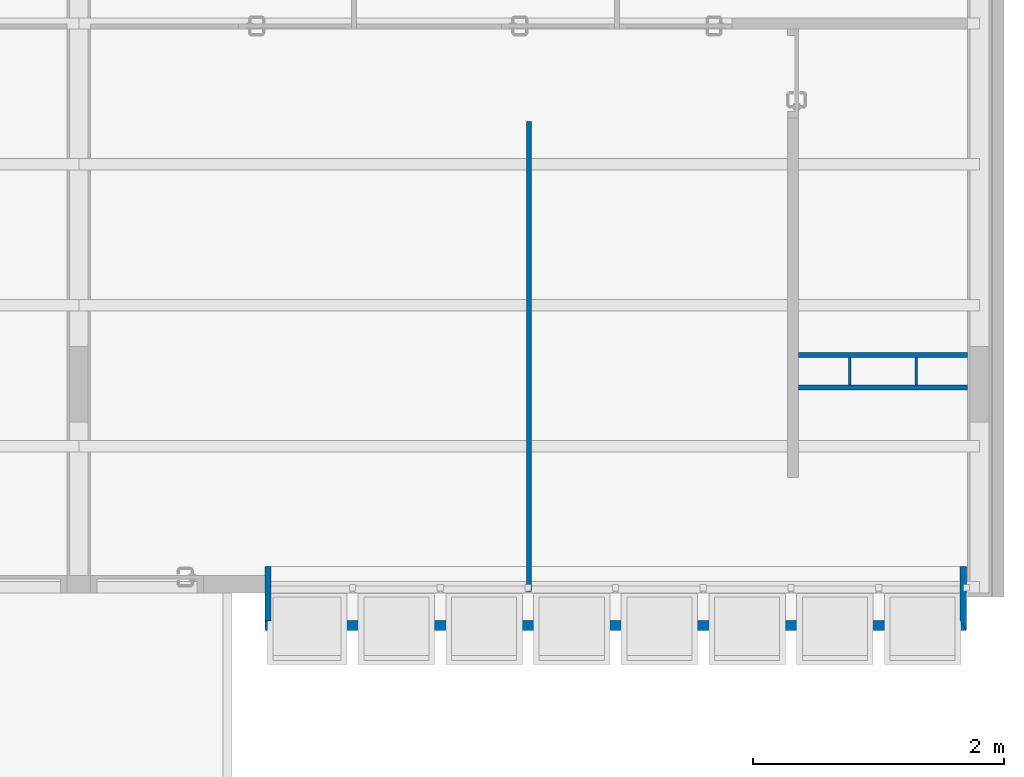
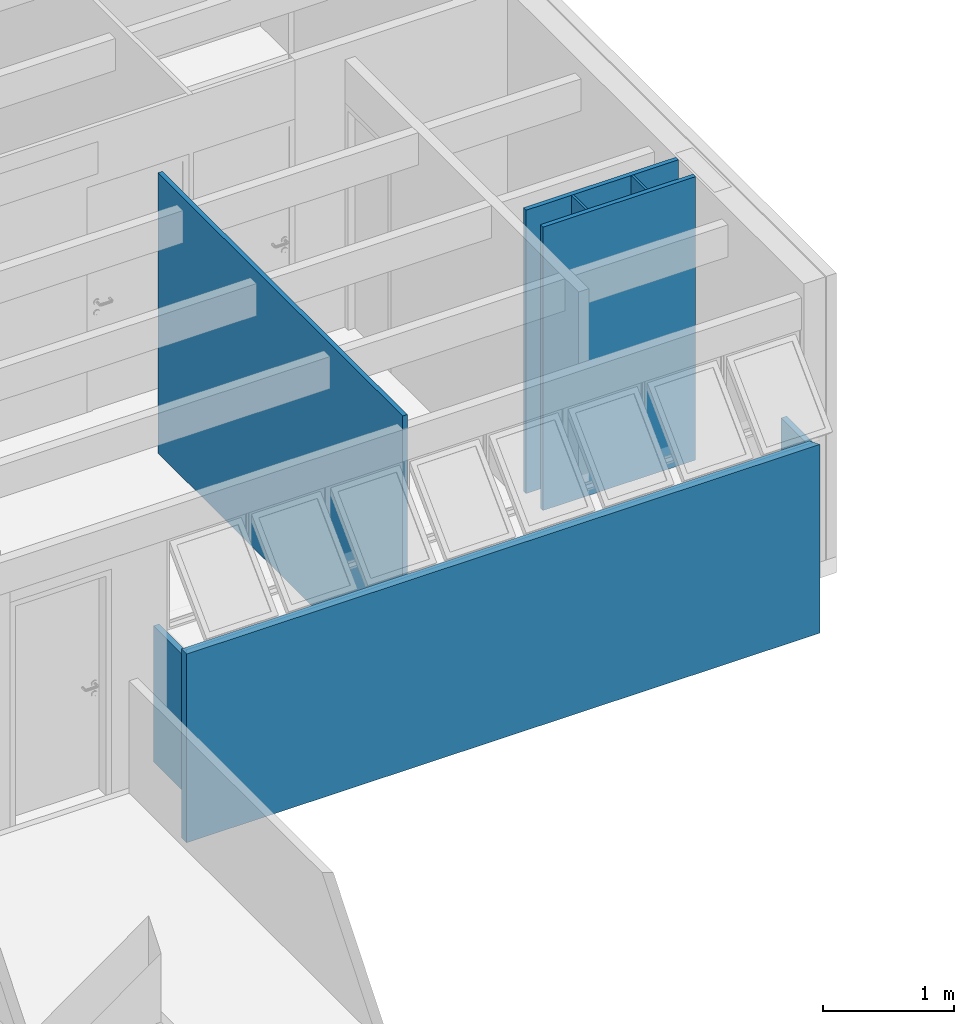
# One storey, part 22 of 37: 8 walls.
"""IFC2X3 building model written with IfcOpenShell, lengths in millimetres."""

import ifcopenshell
import ifcopenshell.guid

model = None  # the IFC model being written
_history = None  # IfcOwnerHistory: only IFC2X3 demands one
_inside = {}  # id of a spatial element -> (the spatial element, [elements in it])
_under = {}  # id of a project, library or spatial element -> (it, [spatial elements below it])
_declared = {}  # id of a project -> (the project, [libraries it declares])
_typed = {}  # id of a type object -> (the type object, [elements of that type])
_made_of = {}  # id of a material, layer set ... -> (it, [elements and type objects made of it])


def new_model(schema):
    """Start an empty IFC model of exactly this schema.

    Asked for "IFC4X3", IfcOpenShell would pick the latest addendum, in which some entities
    have other attributes; the version numbers below select the first issue.
    IFC2X3 requires an IfcOwnerHistory on every rooted entity: one is made here for all.
    """
    global model, _history
    if schema == "IFC4X3":
        model = ifcopenshell.file(schema_version=(4, 3, 0, 0))
    else:
        model = ifcopenshell.file(schema=schema)
    _inside.clear()
    _under.clear()
    _declared.clear()
    _typed.clear()
    _made_of.clear()
    _history = None
    if model.schema == "IFC2X3":
        org = make("IfcOrganization", Name="unknown")
        user = make(
            "IfcPersonAndOrganization",
            ThePerson=make("IfcPerson", FamilyName="unknown"),
            TheOrganization=org,
        )
        app = make(
            "IfcApplication",
            ApplicationDeveloper=org,
            Version="unknown",
            ApplicationFullName="unknown",
            ApplicationIdentifier="unknown",
        )
        _history = make(
            "IfcOwnerHistory",
            OwningUser=user,
            OwningApplication=app,
            ChangeAction="ADDED",
            CreationDate=0,
        )
    return model


def make(cls, **values):
    """One entity of the class cls with the attributes given. An attribute that is None is left unset."""
    return model.create_entity(
        cls, **{name: value for name, value in values.items() if value is not None}
    )


def entity(cls, *values):
    """Any entity or typed value of the class cls, its attributes in the order of the schema. None: left unset."""
    e = model.create_entity(cls)
    for i, value in enumerate(values):
        if value is not None:
            e[i] = value
    return e


def rooted(cls, **values):
    """An entity with a GlobalId (a new one), such as an element, a storey or a relation."""
    return make(cls, GlobalId=ifcopenshell.guid.new(), OwnerHistory=_history, **values)


def si_unit(unit_type, name, prefix=None):
    """IfcSIUnit, for example si_unit("LENGTHUNIT", "METRE", prefix="MILLI")."""
    return make("IfcSIUnit", UnitType=unit_type, Prefix=prefix, Name=name)


def converted_unit(unit_type, name, factor, base, dimensions=None, offset=None):
    """IfcConversionBasedUnit, such as the inch: factor (a typed value) times the base unit."""
    return make(
        "IfcConversionBasedUnit"
        if offset is None
        else "IfcConversionBasedUnitWithOffset",
        ConversionOffset=offset,
        Dimensions=None
        if dimensions is None
        else entity("IfcDimensionalExponents", *dimensions),
        UnitType=unit_type,
        Name=name,
        ConversionFactor=make(
            "IfcMeasureWithUnit", ValueComponent=factor, UnitComponent=base
        ),
    )


def derived_unit(unit_type, elements):
    """IfcDerivedUnit: a product of units, each with its exponent."""
    return make(
        "IfcDerivedUnit",
        Elements=[
            make("IfcDerivedUnitElement", Unit=unit, Exponent=power)
            for unit, power in elements
        ],
        UnitType=unit_type,
    )


def money_unit(currency):
    """IfcMonetaryUnit."""
    return make("IfcMonetaryUnit", Currency=currency)


def assignment(units):
    """IfcUnitAssignment: the units of a project."""
    return None if units is None else make("IfcUnitAssignment", Units=units)


def point(xyz):
    """IfcCartesianPoint."""
    return None if xyz is None else make("IfcCartesianPoint", Coordinates=xyz)


def direction(xyz):
    """IfcDirection."""
    return None if xyz is None else make("IfcDirection", DirectionRatios=xyz)


def frame(location, z_axis=None, x_axis=None):
    """IfcAxis2Placement3D, a coordinate frame: its origin and axes. An axis left out is left unset."""
    return make(
        "IfcAxis2Placement3D",
        Location=point(location),
        Axis=direction(z_axis),
        RefDirection=direction(x_axis),
    )


def origin_with_axes():
    """The frame at (0, 0, 0) with the z axis (0, 0, 1) and the x axis (1, 0, 0) written out."""
    return frame((0.0, 0.0, 0.0), z_axis=(0.0, 0.0, 1.0), x_axis=(1.0, 0.0, 0.0))


def place(relative_to, where):
    """IfcLocalPlacement: puts the frame where relative to a parent placement (None: the world)."""
    return make(
        "IfcLocalPlacement", PlacementRelTo=relative_to, RelativePlacement=where
    )


def context(
    kind, dimensions, precision=None, world=None, true_north=None, identifier=None
):
    """IfcGeometricRepresentationContext, for example the 3D "Model" context."""
    return make(
        "IfcGeometricRepresentationContext",
        ContextIdentifier=identifier,
        ContextType=kind,
        CoordinateSpaceDimension=dimensions,
        Precision=precision,
        WorldCoordinateSystem=world,
        TrueNorth=true_north,
    )


def subcontext(parent, identifier, kind, view, scale=None):
    """IfcGeometricRepresentationSubContext, for example "Body" below "Model"."""
    return make(
        "IfcGeometricRepresentationSubContext",
        ContextIdentifier=identifier,
        ContextType=kind,
        ParentContext=parent,
        TargetScale=scale,
        TargetView=view,
    )


def project(units=None, contexts=None):
    """IfcProject with its units and contexts."""
    return rooted(
        "IfcProject",
        Name="project",
        RepresentationContexts=contexts,
        UnitsInContext=assignment(units),
    )


def spatial(cls, under=None, at=None, **own):
    """A site, building, storey or space (cls), placed at a placement, below another one or the project."""
    s = rooted(cls, ObjectPlacement=at, **own)
    if under is not None:
        _under.setdefault(under.id(), (under, []))[1].append(s)
    return s


def polyline(points):
    """IfcPolyline through the points."""
    return make("IfcPolyline", Points=[point(p) for p in points])


def outline(outer, holes=None, kind="AREA"):
    """IfcArbitraryClosedProfileDef: a profile drawn as a closed curve; with holes, ...WithVoids."""
    if holes is None:
        return make("IfcArbitraryClosedProfileDef", ProfileType=kind, OuterCurve=outer)
    return make(
        "IfcArbitraryProfileDefWithVoids",
        ProfileType=kind,
        OuterCurve=outer,
        InnerCurves=holes,
    )


def extrude(swept, where, along, depth):
    """IfcExtrudedAreaSolid: the profile swept, set in the frame where, extruded along a direction by depth."""
    return make(
        "IfcExtrudedAreaSolid",
        SweptArea=swept,
        Position=where,
        ExtrudedDirection=direction(along),
        Depth=depth,
    )


def shape(context_of_items, identifier, shape_type, items):
    """IfcShapeRepresentation: the items that make up one representation, for example the "Body"."""
    return make(
        "IfcShapeRepresentation",
        ContextOfItems=context_of_items,
        RepresentationIdentifier=identifier,
        RepresentationType=shape_type,
        Items=items,
    )


def material(Name=None, Category=None):
    """IfcMaterial."""
    return make("IfcMaterial", Name=Name, Category=Category)


def layer(
    of_material, thickness, ventilated=None, Name=None, Category=None, Priority=None
):
    """IfcMaterialLayer: one layer of a wall or slab, of a material (None: an air gap)."""
    return make(
        "IfcMaterialLayer",
        Material=of_material,
        LayerThickness=thickness,
        IsVentilated=ventilated,
        Name=Name,
        Category=Category,
        Priority=Priority,
    )


def layer_set(layers, Name=None):
    """IfcMaterialLayerSet."""
    return make("IfcMaterialLayerSet", MaterialLayers=layers, LayerSetName=Name)


def layer_usage(for_layer_set, set_direction, sense, offset, extent=None):
    """IfcMaterialLayerSetUsage: how a layer set lies in its element."""
    return make(
        "IfcMaterialLayerSetUsage",
        ForLayerSet=for_layer_set,
        LayerSetDirection=set_direction,
        DirectionSense=sense,
        OffsetFromReferenceLine=offset,
        ReferenceExtent=extent,
    )


def made_of(thing, what):
    """Note that an element or type object is made of a material, layer set ...; save() writes the relation."""
    if what is not None:
        _made_of.setdefault(what.id(), (what, []))[1].append(thing)
    return thing


def type_object(cls, material=None, **own):
    """A type object (cls), such as IfcWallType, which elements share."""
    return made_of(rooted(cls, **own), material)


def element(
    cls,
    number,
    at=None,
    inside=None,
    cuts=None,
    type_object=None,
    material=None,
    context=None,
    identifier="Body",
    shape_type=None,
    held_by="IfcProductDefinitionShape",
    body=None,
    shapes=None,
    **own,
):
    """One element of the class cls, such as IfcWall. Its Tag is "e" and its number.

    at: its placement. inside: the storey or other place that contains it. cuts: it is an
    opening in that element (IfcRelVoidsElement). A single representation is given by context,
    identifier, shape_type and body (its items); several are given by shapes. held_by: the class
    of the entity that holds the representations. save() writes the other relations.
    """
    e = rooted(cls, Tag="e%d" % number, ObjectPlacement=at, **own)
    if body is not None:
        shapes = [shape(context, identifier, shape_type, body)]
    if shapes is not None:
        e.Representation = make(held_by, Representations=shapes)
    if inside is not None:
        _inside.setdefault(inside.id(), (inside, []))[1].append(e)
    if cuts is not None:
        rooted(
            "IfcRelVoidsElement", RelatingBuildingElement=cuts, RelatedOpeningElement=e
        )
    if type_object is not None:
        _typed.setdefault(type_object.id(), (type_object, []))[1].append(e)
    return made_of(e, material)


def aggregate(whole, parts):
    """IfcRelAggregates: a whole, such as a stair, and the parts it consists of."""
    return rooted("IfcRelAggregates", RelatingObject=whole, RelatedObjects=parts)


def save(model, path):
    """Write the relations noted so far, then the file.

    IfcRelAggregates (storeys below a building ...), IfcRelContainedInSpatialStructure (elements
    in a storey), IfcRelDefinesByType, IfcRelAssociatesMaterial and IfcRelDeclares: one each for
    every whole, place, type object, material and project.
    """
    for whole, parts in _under.values():
        aggregate(whole, parts)
    for where, things in _inside.values():
        rooted(
            "IfcRelContainedInSpatialStructure",
            RelatedElements=things,
            RelatingStructure=where,
        )
    for kind, things in _typed.values():
        rooted("IfcRelDefinesByType", RelatedObjects=things, RelatingType=kind)
    for what, things in _made_of.values():
        rooted("IfcRelAssociatesMaterial", RelatedObjects=things, RelatingMaterial=what)
    for by, libraries in _declared.values():
        rooted("IfcRelDeclares", RelatingContext=by, RelatedDefinitions=libraries)
    model.write(path)


model = new_model("IFC2X3")

# Units and contexts
model_context = context("Model", 3, precision=0.01, world=origin_with_axes(), true_north=direction((0.0, 1.0)))
body_context = subcontext(model_context, "Body", "Model", "MODEL_VIEW")
ifc_project = project(units=[si_unit("LENGTHUNIT", "METRE", prefix="MILLI"), si_unit("AREAUNIT", "SQUARE_METRE"), si_unit("VOLUMEUNIT", "CUBIC_METRE"), converted_unit("PLANEANGLEUNIT", "DEGREE", entity("IfcPlaneAngleMeasure", 0.0174532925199), si_unit("PLANEANGLEUNIT", "RADIAN"), dimensions=[0, 0, 0, 0, 0, 0, 0]), money_unit("USD"), converted_unit("TIMEUNIT", "Year", entity("IfcTimeMeasure", 31556926.0), si_unit("TIMEUNIT", "SECOND"), dimensions=[0, 0, 1, 0, 0, 0, 0]), si_unit("MASSUNIT", "GRAM", prefix="KILO"), si_unit("THERMODYNAMICTEMPERATUREUNIT", "DEGREE_CELSIUS"), si_unit("LUMINOUSINTENSITYUNIT", "LUMEN"), si_unit("ENERGYUNIT", "JOULE", prefix="MEGA"), derived_unit("THERMALCONDUCTANCEUNIT", [(si_unit("POWERUNIT", "WATT"), 1), (si_unit("LENGTHUNIT", "METRE"), -1), (si_unit("THERMODYNAMICTEMPERATUREUNIT", "KELVIN"), -1)]), derived_unit("SPECIFICHEATCAPACITYUNIT", [(si_unit("ENERGYUNIT", "JOULE"), 1), (si_unit("MASSUNIT", "GRAM", prefix="KILO"), -1), (si_unit("THERMODYNAMICTEMPERATUREUNIT", "KELVIN"), -1)]), derived_unit("MASSDENSITYUNIT", [(si_unit("MASSUNIT", "GRAM", prefix="KILO"), 1), (si_unit("VOLUMEUNIT", "CUBIC_METRE"), -1)])], contexts=[model_context])

# Site, building, storey
site_placement = place(None, origin_with_axes())
site = spatial("IfcSite", under=ifc_project, at=site_placement, Name="Local", CompositionType="ELEMENT")
building_placement = place(site_placement, origin_with_axes())
building = spatial("IfcBuilding", under=site, at=building_placement, Name="Construção", CompositionType="ELEMENT")
storey_placement = place(building_placement, origin_with_axes())
storey = spatial("IfcBuildingStorey", under=building, at=storey_placement, Name="Primeiro Pavimento", CompositionType="ELEMENT", Elevation=0.0)

# Walls
ifc_material_1 = material(Name="GENÉRICO - VEDAÇÃO EXTERNA")
ifc_layer_1 = layer(ifc_material_1, 40.0, ventilated="UNKNOWN")
ifc_layer_set_1 = layer_set([ifc_layer_1], Name="GENÉRICO - VEDAÇÃO EXTERNA 40")
ifc_layer_usage_1 = layer_usage(ifc_layer_set_1, "AXIS2", "NEGATIVE", 40.0)
wall_type_1 = type_object("IfcWallType", Name="GENÉRICO - VEDAÇÃO EXTERNA 40", PredefinedType="NOTDEFINED")
wall_1_placement = place(storey_placement, frame((10960.0, 21655.0, 0.0), z_axis=(0.0, 0.0, 1.0), x_axis=(0.0, -1.0, 0.0)))
element("IfcWallStandardCase", 1, at=wall_1_placement, inside=storey, type_object=wall_type_1, material=ifc_layer_usage_1, Name="APTO4-PAREDE-003", context=body_context, shape_type="SweptSolid", body=[
    extrude(outline(polyline([(0.0, 0.0), (3750.0, 0.0), (3750.0, 40.0), (0.0, 40.0), (0.0, 0.0)])), origin_with_axes(), (0.0, 0.0, 1.0), 2620.0),
])
ifc_layer_usage_2 = layer_usage(ifc_layer_set_1, "AXIS2", "NEGATIVE", 40.0)
wall_2_placement = place(storey_placement, frame((14480.0, 19815.0, 0.0), z_axis=(0.0, 0.0, 1.0), x_axis=(-1.0, 0.0, 0.0)))
element("IfcWallStandardCase", 2, at=wall_2_placement, inside=storey, type_object=wall_type_1, material=ifc_layer_usage_2, Name="APTO4-PAREDE-011", context=body_context, shape_type="SweptSolid", body=[
    extrude(outline(polyline([(0.0, 0.0), (1350.0, 0.0), (1350.0, 40.0), (0.0, 40.0), (0.0, 0.0)])), origin_with_axes(), (0.0, 0.0, 1.0), 2650.0),
])
ifc_layer_usage_3 = layer_usage(ifc_layer_set_1, "AXIS2", "NEGATIVE", 40.0)
wall_3_placement = place(storey_placement, frame((13040.0, 19515.0, 0.0), z_axis=(0.0, 0.0, 1.0), x_axis=(1.0, 0.0, 0.0)))
element("IfcWallStandardCase", 3, at=wall_3_placement, inside=storey, type_object=wall_type_1, material=ifc_layer_usage_3, Name="APTO4-PAREDE-010", context=body_context, shape_type="SweptSolid", body=[
    extrude(outline(polyline([(90.0, 0.0), (1440.0, 0.0), (1440.0, 40.0), (90.0, 40.0), (90.0, 0.0)])), origin_with_axes(), (0.0, 0.0, 1.0), 2650.0),
])
ifc_material_2 = material(Name="Concreto Armado Moldado in Loco - Estrutural")
ifc_layer_2 = layer(ifc_material_2, 50.0, ventilated="UNKNOWN")
ifc_layer_set_2 = layer_set([ifc_layer_2], Name="Concreto Armado Moldado in Loco - Estrutural 50")
ifc_layer_usage_4 = layer_usage(ifc_layer_set_2, "AXIS2", "POSITIVE", -50.0)
wall_type_2 = type_object("IfcWallType", Name="Concreto Armado Moldado in Loco - Estrutural 50", PredefinedType="NOTDEFINED")
wall_4_placement = place(storey_placement, frame((14470.0, 18105.0000013, 0.0), z_axis=(0.0, 0.0, 1.0), x_axis=(0.0, -1.0, 0.0)))
element("IfcWallStandardCase", 4, at=wall_4_placement, inside=storey, type_object=wall_type_2, material=ifc_layer_usage_4, Name="APTO4-PAREDE-018", context=body_context, shape_type="SweptSolid", body=[
    extrude(outline(polyline([(0.0, -50.0), (430.0, -50.0), (510.0, 0.0), (0.0, 0.0), (0.0, -50.0)])), origin_with_axes(), (0.0, 0.0, 1.0), 1270.0),
])
ifc_layer_usage_5 = layer_usage(ifc_layer_set_2, "AXIS2", "POSITIVE", -50.0)
wall_5_placement = place(storey_placement, frame((8920.0, 18105.0000013, 0.0), z_axis=(0.0, 0.0, 1.0), x_axis=(0.0, -1.0, 0.0)))
element("IfcWallStandardCase", 5, at=wall_5_placement, inside=storey, type_object=wall_type_2, material=ifc_layer_usage_5, Name="APTO4-PAREDE-016", context=body_context, shape_type="SweptSolid", body=[
    extrude(outline(polyline([(0.0, -50.0), (435.0, -50.0), (435.0, 0.0), (0.0, 0.0), (0.0, -50.0)])), origin_with_axes(), (0.0, 0.0, 1.0), 1270.0),
])
ifc_layer_3 = layer(ifc_material_1, 20.0, ventilated="UNKNOWN")
ifc_layer_set_3 = layer_set([ifc_layer_3], Name="GENÉRICO - VEDAÇÃO EXTERNA 20")
ifc_layer_usage_6 = layer_usage(ifc_layer_set_3, "AXIS2", "NEGATIVE", 20.0)
wall_type_3 = type_object("IfcWallType", Name="GENÉRICO - VEDAÇÃO EXTERNA 20", PredefinedType="NOTDEFINED")
wall_6_placement = place(storey_placement, frame((14060.0, 19815.0, 0.0), z_axis=(0.0, 0.0, 1.0), x_axis=(0.0, -1.0, 0.0)))
element("IfcWallStandardCase", 6, at=wall_6_placement, inside=storey, type_object=wall_type_3, material=ifc_layer_usage_6, Name="APTO4-PAREDE-009", context=body_context, shape_type="SweptSolid", body=[
    extrude(outline(polyline([(40.0, 0.0), (260.0, 0.0), (260.0, 20.0), (40.0, 20.0), (40.0, 0.0)])), origin_with_axes(), (0.0, 0.0, 1.0), 2650.0),
])
ifc_layer_usage_7 = layer_usage(ifc_layer_set_3, "AXIS2", "NEGATIVE", 0.0)
wall_7_placement = place(storey_placement, frame((13530.0, 19515.0, 0.0), z_axis=(0.0, 0.0, 1.0), x_axis=(0.0, 1.0, 0.0)))
element("IfcWallStandardCase", 7, at=wall_7_placement, inside=storey, type_object=wall_type_3, material=ifc_layer_usage_7, Name="APTO4-PAREDE-008", context=body_context, shape_type="SweptSolid", body=[
    extrude(outline(polyline([(40.0, -20.0), (260.0, -20.0), (260.0, 0.0), (40.0, 0.0), (40.0, -20.0)])), origin_with_axes(), (0.0, 0.0, 1.0), 2650.0),
])
ifc_layer_4 = layer(ifc_material_2, 80.0, ventilated="UNKNOWN")
ifc_layer_set_4 = layer_set([ifc_layer_4], Name="Concreto Armado Moldado in Loco - Estrutural 80")
ifc_layer_usage_8 = layer_usage(ifc_layer_set_4, "AXIS2", "NEGATIVE", 80.0)
wall_type_4 = type_object("IfcWallType", Name="Concreto Armado Moldado in Loco - Estrutural 80", PredefinedType="NOTDEFINED")
wall_8_placement = place(storey_placement, frame((14470.0, 17675.0000013, -450.0), z_axis=(0.0, 0.0, 1.0), x_axis=(-1.0, 0.0, 0.0)))
element("IfcWallStandardCase", 8, at=wall_8_placement, inside=storey, type_object=wall_type_4, material=ifc_layer_usage_8, Name="APTO4-PAREDE-017", context=body_context, shape_type="SweptSolid", body=[
    extrude(outline(polyline([(50.0, 0.0), (5600.0, 0.0), (5600.0, 80.0), (0.0, 80.0), (50.0, 0.0)])), origin_with_axes(), (0.0, 0.0, 1.0), 1765.0),
])

save(model, "model.ifc")
